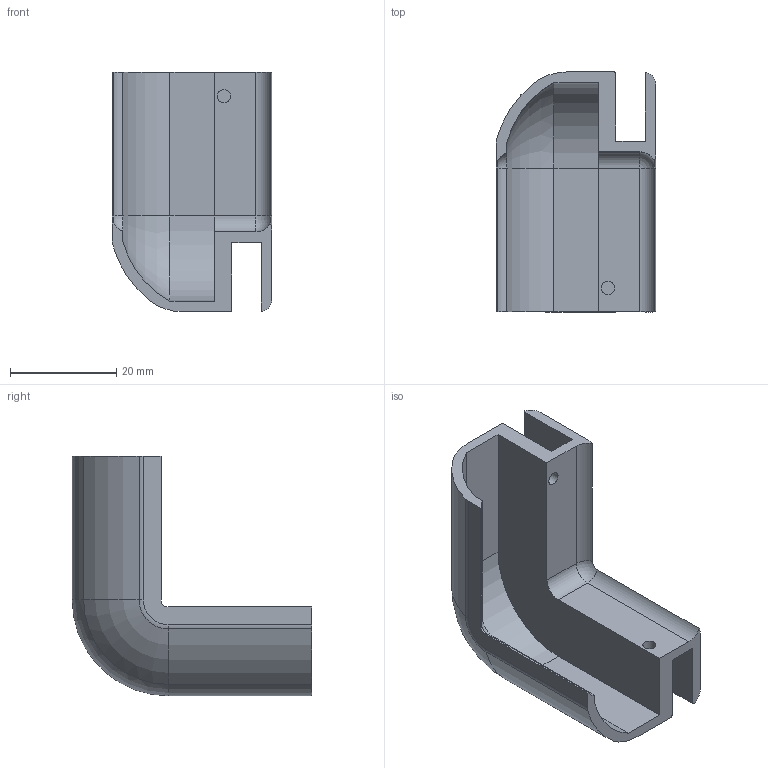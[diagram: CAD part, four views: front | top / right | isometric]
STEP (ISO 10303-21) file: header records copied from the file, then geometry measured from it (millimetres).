
FILE_DESCRIPTION (( 'STEP AP214' ), '1' );
FILE_NAME ('L15847.step', '2024-12-03T16:20:02', ( '' ), ( '' ), 'SwSTEP 2.0', 'SolidWorks 2023', '' );
FILE_SCHEMA (( 'AUTOMOTIVE_DESIGN' ));
Length unit declared in the file: millimetre
Products named in the file (1): L15847
Bounding box: 30 x 45 x 45 mm (x, y, z)
Volume: 10106.3 mm3; surface area: 9740.6 mm2
Topology: 1 solids, 1 shells, 57 faces, 142 edges, 88 vertices
Faces by surface type: cylinder 27, plane 20, torus 8, sphere 2
Full cylindrical faces by diameter (mm): 2.45 x2
Entity records: 1709 total; most frequent: DIRECTION 320, CARTESIAN_POINT 285, ORIENTED_EDGE 278, EDGE_CURVE 139, AXIS2_PLACEMENT_3D 123, VERTEX_POINT 88, LINE 74, VECTOR 74
